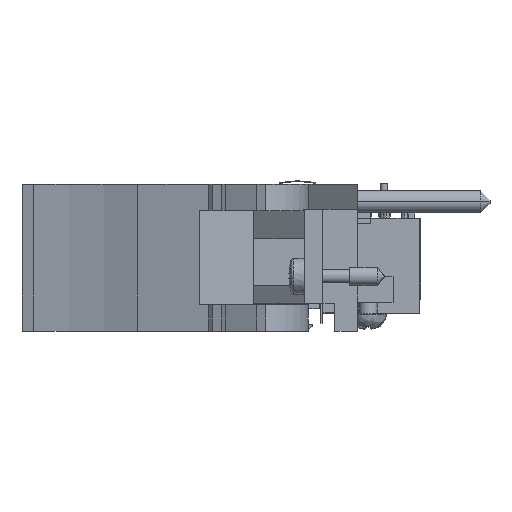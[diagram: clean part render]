
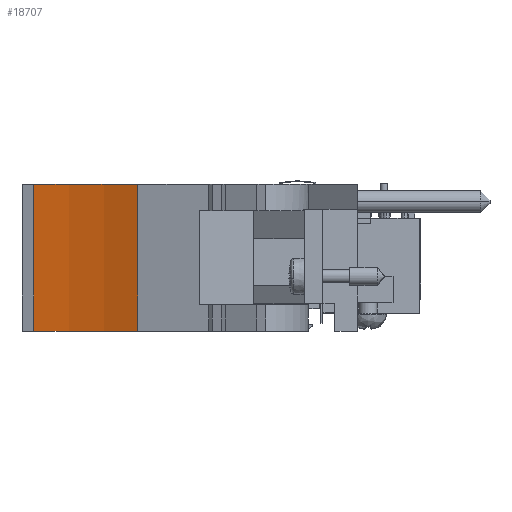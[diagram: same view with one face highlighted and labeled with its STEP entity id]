
A CAD part, front view. The second image highlights one B-rep face of the part: STEP entity #18707.
In plain terms, the highlighted cylindrical face has radius 51.46 mm (diameter 102.919 mm), a partial arc.
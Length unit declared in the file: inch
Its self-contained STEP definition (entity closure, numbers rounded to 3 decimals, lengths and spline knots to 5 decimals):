
#8454=CARTESIAN_POINT('',(-1.97433,-5.95293,0.696));
#8455=DIRECTION('',(0.,0.,1.));
#8456=DIRECTION('',(0.435,0.9,0.));
#8457=AXIS2_PLACEMENT_3D('',#8454,#8455,#8456);
#9264=CARTESIAN_POINT('',(-1.97433,-5.95293,-0.092));
#9265=DIRECTION('',(0.,0.,1.));
#9266=DIRECTION('',(0.435,0.9,0.));
#9267=AXIS2_PLACEMENT_3D('',#9264,#9265,#9266);
#9450=DIRECTION('',(0.,0.,1.));
#9451=VECTOR('',#9450,0.788);
#9452=CARTESIAN_POINT('',(-1.09303,-4.12869,-0.092));
#9453=LINE('',#9452,#9451);
#9466=DIRECTION('',(0.,0.,1.));
#9467=VECTOR('',#9466,0.788);
#9468=CARTESIAN_POINT('',(-1.651,-3.95293,-0.092));
#9469=LINE('',#9468,#9467);
#14671=CARTESIAN_POINT('',(-1.09303,-4.12869,-0.092));
#14672=CARTESIAN_POINT('',(-1.651,-3.95293,-0.092));
#14673=VERTEX_POINT('',#14671);
#14674=VERTEX_POINT('',#14672);
#14675=CARTESIAN_POINT('',(-1.09303,-4.12869,0.696));
#14676=CARTESIAN_POINT('',(-1.651,-3.95293,0.696));
#14677=VERTEX_POINT('',#14675);
#14678=VERTEX_POINT('',#14676);
#18695=CARTESIAN_POINT('',(-1.97433,-5.95293,0.696));
#18696=DIRECTION('',(0.,0.,1.));
#18697=DIRECTION('',(0.,1.,0.));
#18698=AXIS2_PLACEMENT_3D('',#18695,#18696,#18697);
#18699=CYLINDRICAL_SURFACE('',#18698,2.02597);
#18700=ORIENTED_EDGE('',*,*,#18453,.T.);
#18702=ORIENTED_EDGE('',*,*,#18701,.T.);
#18703=ORIENTED_EDGE('',*,*,#17695,.F.);
#18704=ORIENTED_EDGE('',*,*,#18681,.F.);
#18705=EDGE_LOOP('',(#18700,#18702,#18703,#18704));
#18706=FACE_OUTER_BOUND('',#18705,.F.);
#18707=ADVANCED_FACE('',(#18706),#18699,.F.);
#8458=CIRCLE('',#8457,2.02597);
#9268=CIRCLE('',#9267,2.02597);
#17695=EDGE_CURVE('',#14677,#14678,#8458,.T.);
#18453=EDGE_CURVE('',#14673,#14674,#9268,.T.);
#18681=EDGE_CURVE('',#14673,#14677,#9453,.T.);
#18701=EDGE_CURVE('',#14674,#14678,#9469,.T.);
